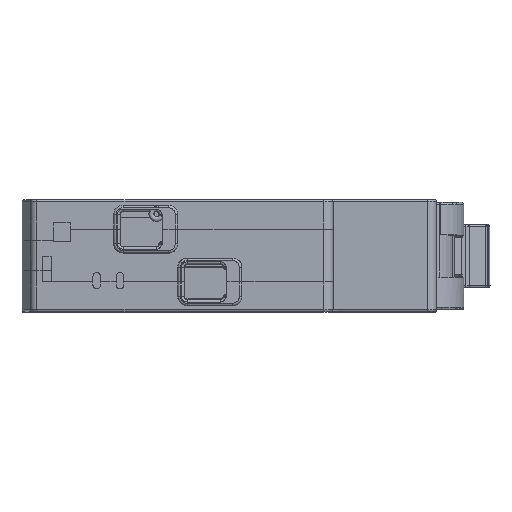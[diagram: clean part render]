
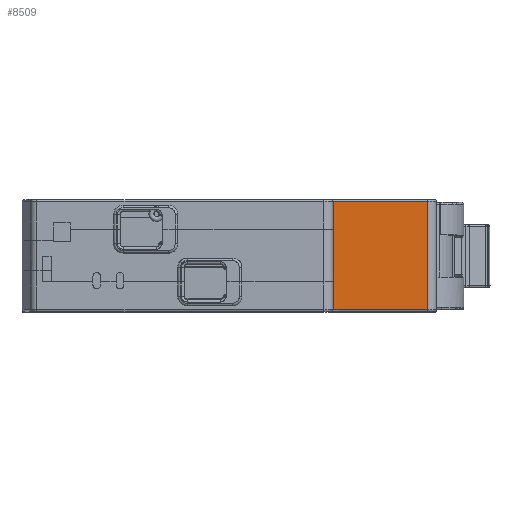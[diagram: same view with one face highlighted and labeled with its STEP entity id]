
A CAD part, top view. The second image highlights one B-rep face of the part: STEP entity #8509.
In plain terms, the highlighted planar face has unit normal (0, 0, 1).
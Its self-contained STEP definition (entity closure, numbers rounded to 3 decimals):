
#520 = VECTOR ( 'NONE', #31794, 1000. ) ;
#1671 = EDGE_LOOP ( 'NONE', ( #61207, #65603, #85768, #63739 ) ) ;
#2580 = EDGE_CURVE ( 'NONE', #44967, #81926, #58610, .T. ) ;
#3330 = FACE_OUTER_BOUND ( 'NONE', #1671, .T. ) ;
#4232 = EDGE_CURVE ( 'NONE', #81926, #44633, #70144, .T. ) ;
#7304 = DIRECTION ( 'NONE',  ( -1., 0., 0. ) ) ;
#8509 = ADVANCED_FACE ( 'NONE', ( #3330 ), #81603, .T. ) ;
#10767 = CARTESIAN_POINT ( 'NONE',  ( 64.5, 0., 63. ) ) ;
#10982 = AXIS2_PLACEMENT_3D ( 'NONE', #72263, #47118, #100275 ) ;
#14712 = DIRECTION ( 'NONE',  ( -1., 0., 0. ) ) ;
#16059 = LINE ( 'NONE', #87843, #98339 ) ;
#31794 = DIRECTION ( 'NONE',  ( 0., -1., 0. ) ) ;
#31826 = CARTESIAN_POINT ( 'NONE',  ( 64.5, 17.2, 63. ) ) ;
#40828 = VECTOR ( 'NONE', #94254, 1000. ) ;
#44633 = VERTEX_POINT ( 'NONE', #48486 ) ;
#44967 = VERTEX_POINT ( 'NONE', #31826 ) ;
#47118 = DIRECTION ( 'NONE',  ( 0., 0., 1. ) ) ;
#48486 = CARTESIAN_POINT ( 'NONE',  ( 49.5, 0., 63. ) ) ;
#58610 = LINE ( 'NONE', #100699, #40828 ) ;
#59980 = VERTEX_POINT ( 'NONE', #97562 ) ;
#61207 = ORIENTED_EDGE ( 'NONE', *, *, #4232, .F. ) ;
#63739 = ORIENTED_EDGE ( 'NONE', *, *, #93107, .T. ) ;
#65603 = ORIENTED_EDGE ( 'NONE', *, *, #2580, .F. ) ;
#66849 = LINE ( 'NONE', #109498, #520 ) ;
#70144 = LINE ( 'NONE', #103459, #82880 ) ;
#72263 = CARTESIAN_POINT ( 'NONE',  ( 49.2, -0.344, 63. ) ) ;
#81603 = PLANE ( 'NONE',  #10982 ) ;
#81926 = VERTEX_POINT ( 'NONE', #10767 ) ;
#82880 = VECTOR ( 'NONE', #14712, 1000. ) ;
#85768 = ORIENTED_EDGE ( 'NONE', *, *, #112718, .T. ) ;
#87843 = CARTESIAN_POINT ( 'NONE',  ( 49.2, 17.2, 63. ) ) ;
#93107 = EDGE_CURVE ( 'NONE', #59980, #44633, #66849, .T. ) ;
#94254 = DIRECTION ( 'NONE',  ( 0., -1., 0. ) ) ;
#97562 = CARTESIAN_POINT ( 'NONE',  ( 49.5, 17.2, 63. ) ) ;
#98339 = VECTOR ( 'NONE', #7304, 1000. ) ;
#100275 = DIRECTION ( 'NONE',  ( 1., 0., 0. ) ) ;
#100699 = CARTESIAN_POINT ( 'NONE',  ( 64.5, 17.2, 63. ) ) ;
#103459 = CARTESIAN_POINT ( 'NONE',  ( 49.2, 0., 63. ) ) ;
#109498 = CARTESIAN_POINT ( 'NONE',  ( 49.5, -0.344, 63. ) ) ;
#112718 = EDGE_CURVE ( 'NONE', #44967, #59980, #16059, .T. ) ;
